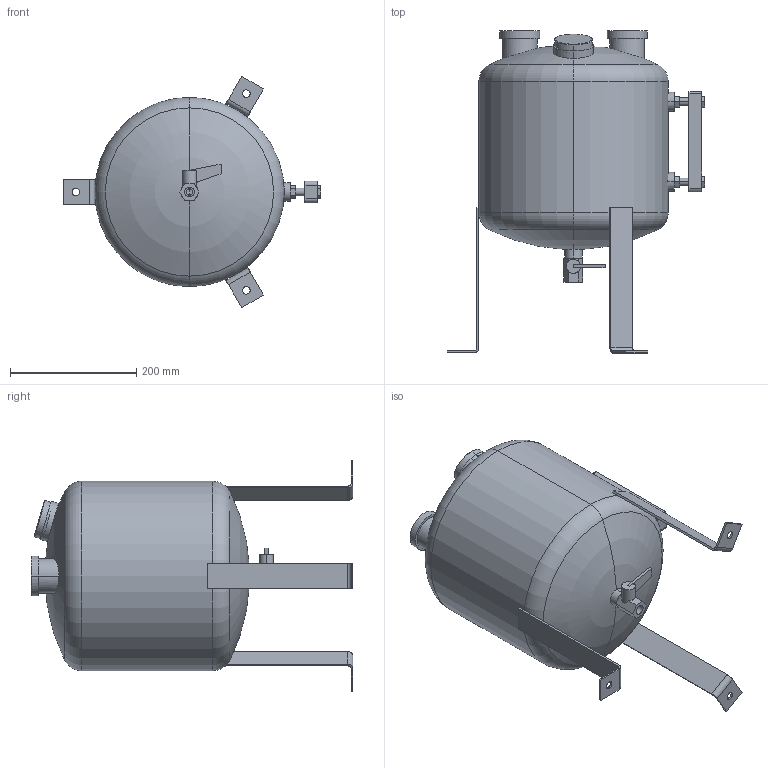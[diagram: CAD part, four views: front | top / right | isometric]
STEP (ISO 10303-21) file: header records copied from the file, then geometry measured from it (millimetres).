
FILE_DESCRIPTION((''),'2;1');
FILE_NAME('95142_A0','2015-05-25T',('L2200084'),('Copyright by Leybold GmbH'),'PRO/ENGINEER BY PARAMETRIC TECHNOLOGY CORPORATION, 2013320','PRO/ENGINEER BY PARAMETRIC TECHNOLOGY CORPORATION, 2013320','');
FILE_SCHEMA(('AUTOMOTIVE_DESIGN { 1 0 10303 214 1 1 1 1 }'));
Length unit declared in the file: millimetre
Products named in the file (1): 95142_A0
Bounding box: 408 x 510 x 366.41 mm (x, y, z)
Surface area: 921217.9 mm2 (no closed solid volume)
Topology: 0 solids, 11 shells, 190 faces, 453 edges, 298 vertices
Faces by surface type: plane 91, cylinder 75, sphere 14, torus 8, cone 2
Entity records: 5948 total; most frequent: CARTESIAN_POINT 1433, DIRECTION 947, ORIENTED_EDGE 854, EDGE_CURVE 449, AXIS2_PLACEMENT_3D 346, VERTEX_POINT 298, VECTOR 255, LINE 255
